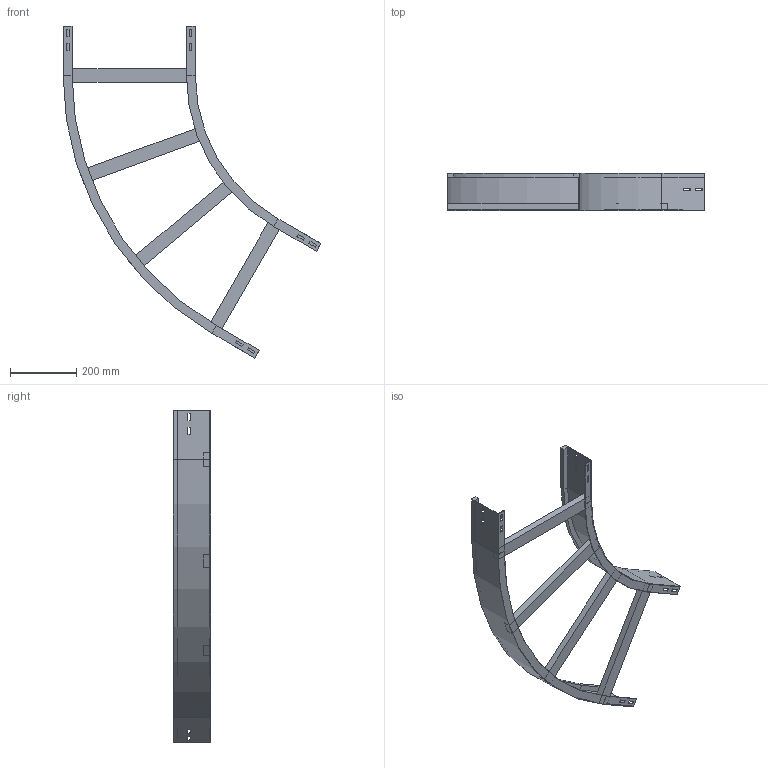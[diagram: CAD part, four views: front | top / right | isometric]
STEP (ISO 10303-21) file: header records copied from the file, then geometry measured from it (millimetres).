
FILE_DESCRIPTION (( 'STEP AP214' ), '1' );
FILE_NAME ('13B5J400.step', '2025-02-21T15:18:54', ( '' ), ( '' ), 'SwSTEP 2.0', 'SolidWorks 2023', '' );
FILE_SCHEMA (( 'AUTOMOTIVE_DESIGN' ));
Length unit declared in the file: millimetre
Products named in the file (4): TRAVERSINO_400; 13B5J400; A2_LONGH.INTERNO 60°_H112.5_R500; A2_LONGH.ESTERNO 60°_H112.5_R500+400
Assembly tree (6 placements, depth 2):
  13B5J400
    A2_LONGH.INTERNO 60°_H112.5_R500
    A2_LONGH.ESTERNO 60°_H112.5_R500+400
    TRAVERSINO_400  x4
Bounding box: 779.9 x 112.5 x 1004.42 mm (x, y, z)
Volume: 2242969.8 mm3; surface area: 839489.8 mm2
Topology: 6 solids, 6 shells, 140 faces, 352 edges, 224 vertices
Faces by surface type: plane 132, cylinder 8
Entity records: 3829 total; most frequent: CARTESIAN_POINT 647, ORIENTED_EDGE 632, DIRECTION 594, EDGE_CURVE 316, LINE 300, VECTOR 300, VERTEX_POINT 200, EDGE_LOOP 154
